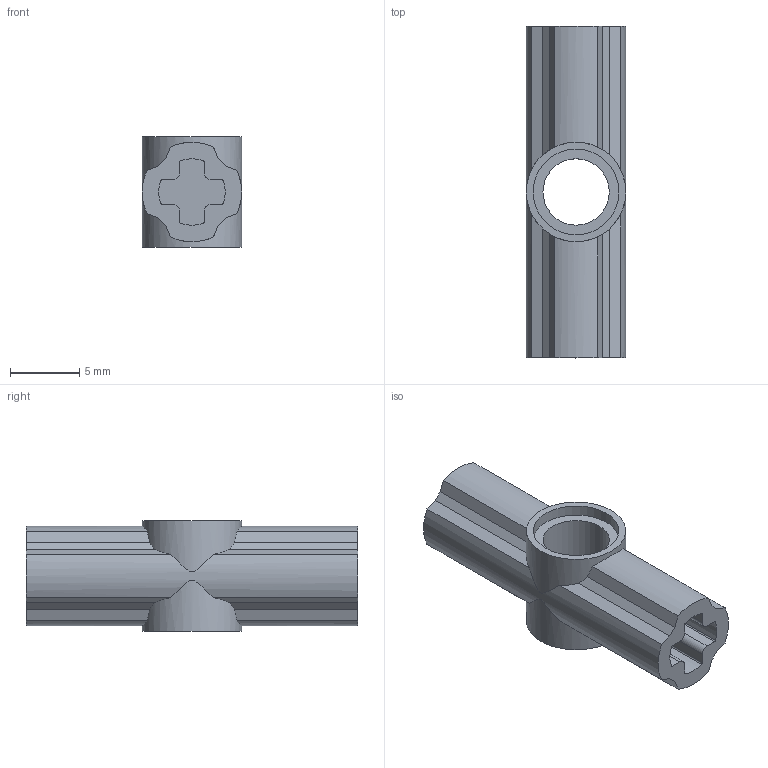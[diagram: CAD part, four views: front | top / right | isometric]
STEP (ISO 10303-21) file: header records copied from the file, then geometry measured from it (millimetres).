
FILE_DESCRIPTION(/* description */ ('Unknown'),/* implementation_level */ '2;1');
FILE_NAME(/* name */ 'Black_4107783_JCA',/* time_stamp */ '2025-07-21T23:44:00+02:00',/* author */ ('Unknown'),/* organization */ ('Unknown'),/* preprocessor_version */ 'ST-DEVELOPER v19.4',/* originating_system */ 'Solid Edge',/* authorisation */ 'Unknown');
FILE_SCHEMA (('AUTOMOTIVE_DESIGN {1 0 10303 214 3 1 1}'));
Length unit declared in the file: millimetre
Products named in the file (1): Black_4107783_JCA
Bounding box: 7.21 x 24 x 8 mm (x, y, z)
Volume: 603 mm3; surface area: 1048.4 mm2
Topology: 1 solids, 1 shells, 91 faces, 252 edges, 168 vertices
Faces by surface type: plane 48, cylinder 43
Full cylindrical faces by diameter (mm): 4.8 x1, 6.2 x2, 7.2 x1
Entity records: 3012 total; most frequent: CARTESIAN_POINT 572, DIRECTION 528, ORIENTED_EDGE 496, EDGE_CURVE 248, AXIS2_PLACEMENT_3D 196, VERTEX_POINT 168, LINE 136, VECTOR 136
